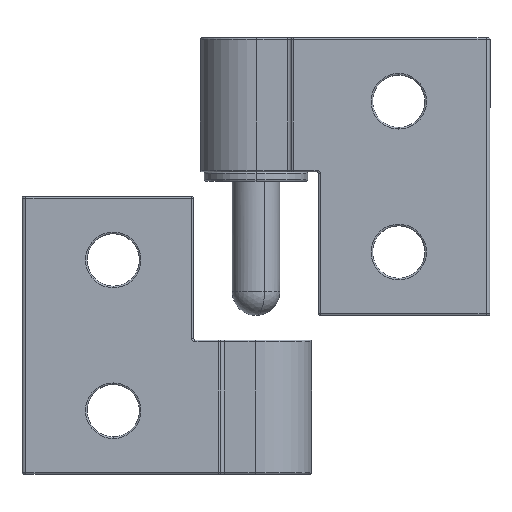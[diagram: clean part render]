
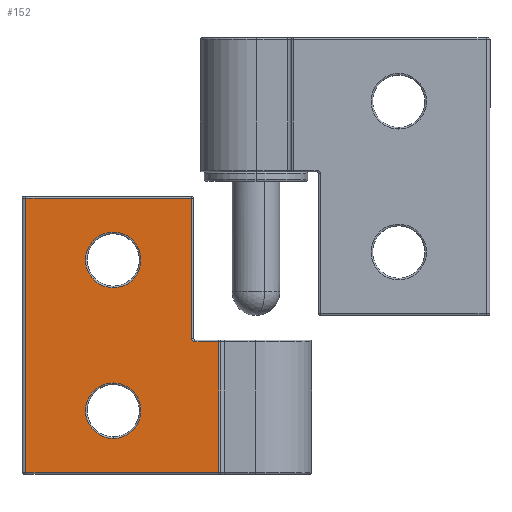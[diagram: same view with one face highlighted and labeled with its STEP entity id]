
A CAD part, front view. The second image highlights one B-rep face of the part: STEP entity #152.
In plain terms, the highlighted planar face has unit normal (0, -1, 0).
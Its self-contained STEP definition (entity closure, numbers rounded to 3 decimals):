
#8 = CARTESIAN_POINT ( 'NONE',  ( -18., -8.4, -6. ) ) ;
#42 = VERTEX_POINT ( 'NONE', #8969 ) ;
#152 = ADVANCED_FACE ( 'NONE', ( #7364, #6876, #12527 ), #7186, .F. ) ;
#158 = CARTESIAN_POINT ( 'NONE',  ( -8.1, -8.4, 17.3 ) ) ;
#171 = EDGE_CURVE ( 'NONE', #10856, #42, #7517, .T. ) ;
#207 = VERTEX_POINT ( 'NONE', #8 ) ;
#270 = EDGE_CURVE ( 'NONE', #10408, #1527, #9121, .T. ) ;
#311 = EDGE_CURVE ( 'NONE', #10408, #7549, #13341, .T. ) ;
#384 = CARTESIAN_POINT ( 'NONE',  ( -18., -8.4, -13. ) ) ;
#560 = ORIENTED_EDGE ( 'NONE', *, *, #12398, .T. ) ;
#953 = EDGE_CURVE ( 'NONE', #7549, #10741, #9260, .T. ) ;
#996 = DIRECTION ( 'NONE',  ( 0., 0., 1. ) ) ;
#1293 = AXIS2_PLACEMENT_3D ( 'NONE', #4784, #2664, #10899 ) ;
#1527 = VERTEX_POINT ( 'NONE', #11689 ) ;
#1905 = ORIENTED_EDGE ( 'NONE', *, *, #2278, .F. ) ;
#1970 = VERTEX_POINT ( 'NONE', #5758 ) ;
#2027 = DIRECTION ( 'NONE',  ( 0., 0., 1. ) ) ;
#2278 = EDGE_CURVE ( 'NONE', #2533, #10741, #9375, .T. ) ;
#2418 = CARTESIAN_POINT ( 'NONE',  ( -4.693, -8.4, -17.3 ) ) ;
#2533 = VERTEX_POINT ( 'NONE', #6631 ) ;
#2594 = CIRCLE ( 'NONE', #8714, 3.5 ) ;
#2640 = ORIENTED_EDGE ( 'NONE', *, *, #953, .T. ) ;
#2664 = DIRECTION ( 'NONE',  ( 0., 1., 0. ) ) ;
#2696 = DIRECTION ( 'NONE',  ( -1., 0., 0. ) ) ;
#2725 = ORIENTED_EDGE ( 'NONE', *, *, #311, .T. ) ;
#2727 = DIRECTION ( 'NONE',  ( 0., 0., 1. ) ) ;
#2956 = ORIENTED_EDGE ( 'NONE', *, *, #4337, .T. ) ;
#2987 = DIRECTION ( 'NONE',  ( 0., 1., 0. ) ) ;
#3003 = VECTOR ( 'NONE', #2027, 1000. ) ;
#3055 = EDGE_CURVE ( 'NONE', #1970, #6803, #5838, .T. ) ;
#3380 = EDGE_CURVE ( 'NONE', #207, #4084, #2594, .T. ) ;
#3476 = EDGE_LOOP ( 'NONE', ( #9303, #2956 ) ) ;
#3635 = CARTESIAN_POINT ( 'NONE',  ( -18., -8.4, 6. ) ) ;
#3701 = DIRECTION ( 'NONE',  ( 0., 1., 0. ) ) ;
#3769 = CARTESIAN_POINT ( 'NONE',  ( -29.5, -8.4, 17.3 ) ) ;
#4084 = VERTEX_POINT ( 'NONE', #384 ) ;
#4332 = DIRECTION ( 'NONE',  ( 0., 0., 1. ) ) ;
#4337 = EDGE_CURVE ( 'NONE', #6803, #1970, #10303, .T. ) ;
#4589 = VECTOR ( 'NONE', #8553, 1000. ) ;
#4687 = CARTESIAN_POINT ( 'NONE',  ( -18., -8.4, 9.5 ) ) ;
#4784 = CARTESIAN_POINT ( 'NONE',  ( -18., -8.4, 9.5 ) ) ;
#5362 = DIRECTION ( 'NONE',  ( 0., 0., 1. ) ) ;
#5410 = CARTESIAN_POINT ( 'NONE',  ( -7.7, -8.4, -0.4 ) ) ;
#5758 = CARTESIAN_POINT ( 'NONE',  ( -18., -8.4, 13. ) ) ;
#5838 = CIRCLE ( 'NONE', #10098, 3.5 ) ;
#6113 = CARTESIAN_POINT ( 'NONE',  ( -4.693, -8.4, 17.5 ) ) ;
#6541 = VECTOR ( 'NONE', #2696, 1000. ) ;
#6631 = CARTESIAN_POINT ( 'NONE',  ( -29., -8.4, -17.3 ) ) ;
#6803 = VERTEX_POINT ( 'NONE', #3635 ) ;
#6838 = ORIENTED_EDGE ( 'NONE', *, *, #3380, .T. ) ;
#6876 = FACE_BOUND ( 'NONE', #3476, .T. ) ;
#6982 = EDGE_LOOP ( 'NONE', ( #6838, #7583 ) ) ;
#7143 = LINE ( 'NONE', #13085, #12133 ) ;
#7181 = DIRECTION ( 'NONE',  ( 0., 1., 0. ) ) ;
#7186 = PLANE ( 'NONE',  #9095 ) ;
#7333 = CARTESIAN_POINT ( 'NONE',  ( -4.5, -8.4, -17.3 ) ) ;
#7364 = FACE_BOUND ( 'NONE', #6982, .T. ) ;
#7517 = LINE ( 'NONE', #6113, #3003 ) ;
#7549 = VERTEX_POINT ( 'NONE', #158 ) ;
#7583 = ORIENTED_EDGE ( 'NONE', *, *, #11160, .T. ) ;
#7895 = EDGE_CURVE ( 'NONE', #2533, #10856, #8030, .T. ) ;
#8030 = LINE ( 'NONE', #7333, #12551 ) ;
#8109 = VECTOR ( 'NONE', #9958, 1000. ) ;
#8499 = EDGE_LOOP ( 'NONE', ( #12965, #10497, #560, #8684, #2725, #2640, #1905 ) ) ;
#8536 = DIRECTION ( 'NONE',  ( 1., 0., 0. ) ) ;
#8553 = DIRECTION ( 'NONE',  ( 0., 0., 1. ) ) ;
#8641 = AXIS2_PLACEMENT_3D ( 'NONE', #11526, #12494, #5362 ) ;
#8684 = ORIENTED_EDGE ( 'NONE', *, *, #270, .F. ) ;
#8714 = AXIS2_PLACEMENT_3D ( 'NONE', #13386, #7181, #996 ) ;
#8910 = CARTESIAN_POINT ( 'NONE',  ( -29., -8.4, -17.5 ) ) ;
#8955 = DIRECTION ( 'NONE',  ( -1., 0., 0. ) ) ;
#8969 = CARTESIAN_POINT ( 'NONE',  ( -4.693, -8.4, -0.8 ) ) ;
#9095 = AXIS2_PLACEMENT_3D ( 'NONE', #9320, #2987, #10310 ) ;
#9121 = CIRCLE ( 'NONE', #11595, 0.4 ) ;
#9260 = LINE ( 'NONE', #3769, #6541 ) ;
#9303 = ORIENTED_EDGE ( 'NONE', *, *, #3055, .T. ) ;
#9320 = CARTESIAN_POINT ( 'NONE',  ( -29.5, -8.4, 17.5 ) ) ;
#9375 = LINE ( 'NONE', #8910, #8109 ) ;
#9958 = DIRECTION ( 'NONE',  ( 0., 0., 1. ) ) ;
#10098 = AXIS2_PLACEMENT_3D ( 'NONE', #4687, #3701, #2727 ) ;
#10303 = CIRCLE ( 'NONE', #1293, 3.5 ) ;
#10310 = DIRECTION ( 'NONE',  ( 0., 0., 1. ) ) ;
#10408 = VERTEX_POINT ( 'NONE', #11759 ) ;
#10441 = CARTESIAN_POINT ( 'NONE',  ( -8.1, -8.4, 17.5 ) ) ;
#10497 = ORIENTED_EDGE ( 'NONE', *, *, #171, .T. ) ;
#10524 = DIRECTION ( 'NONE',  ( 0., -1., 0. ) ) ;
#10741 = VERTEX_POINT ( 'NONE', #12581 ) ;
#10856 = VERTEX_POINT ( 'NONE', #2418 ) ;
#10899 = DIRECTION ( 'NONE',  ( 0., 0., 1. ) ) ;
#11160 = EDGE_CURVE ( 'NONE', #4084, #207, #12813, .T. ) ;
#11526 = CARTESIAN_POINT ( 'NONE',  ( -18., -8.4, -9.5 ) ) ;
#11595 = AXIS2_PLACEMENT_3D ( 'NONE', #5410, #10524, #4332 ) ;
#11689 = CARTESIAN_POINT ( 'NONE',  ( -7.7, -8.4, -0.8 ) ) ;
#11759 = CARTESIAN_POINT ( 'NONE',  ( -8.1, -8.4, -0.4 ) ) ;
#12133 = VECTOR ( 'NONE', #8955, 1000. ) ;
#12398 = EDGE_CURVE ( 'NONE', #42, #1527, #7143, .T. ) ;
#12494 = DIRECTION ( 'NONE',  ( 0., 1., 0. ) ) ;
#12527 = FACE_OUTER_BOUND ( 'NONE', #8499, .T. ) ;
#12551 = VECTOR ( 'NONE', #8536, 1000. ) ;
#12581 = CARTESIAN_POINT ( 'NONE',  ( -29., -8.4, 17.3 ) ) ;
#12813 = CIRCLE ( 'NONE', #8641, 3.5 ) ;
#12965 = ORIENTED_EDGE ( 'NONE', *, *, #7895, .T. ) ;
#13085 = CARTESIAN_POINT ( 'NONE',  ( -29.5, -8.4, -0.8 ) ) ;
#13341 = LINE ( 'NONE', #10441, #4589 ) ;
#13386 = CARTESIAN_POINT ( 'NONE',  ( -18., -8.4, -9.5 ) ) ;
